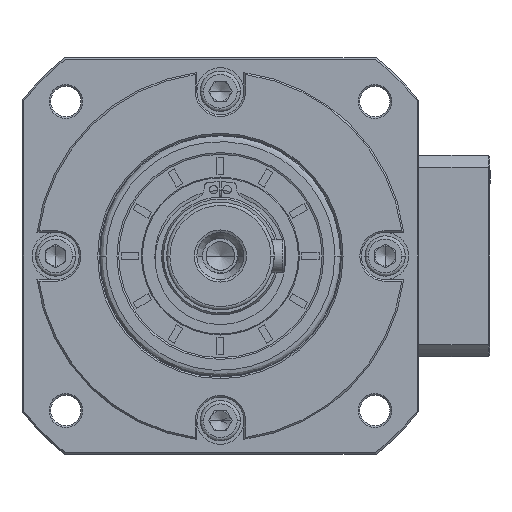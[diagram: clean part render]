
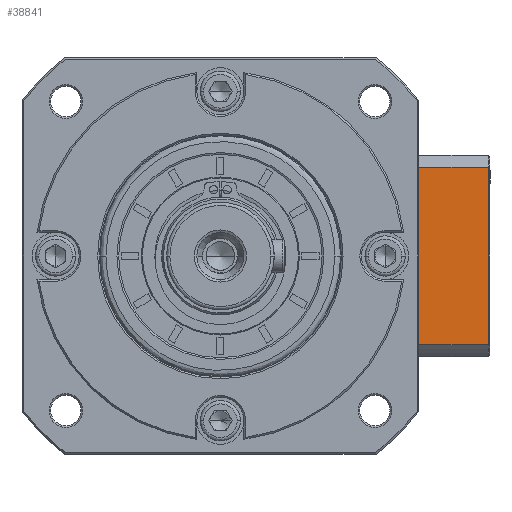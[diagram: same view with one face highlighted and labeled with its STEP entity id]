
A CAD part, left-side view. The second image highlights one B-rep face of the part: STEP entity #38841.
In plain terms, the highlighted planar face has unit normal (-1, 0, 0).
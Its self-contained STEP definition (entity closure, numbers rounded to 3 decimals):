
#263 = DIRECTION ( 'NONE',  ( 0., -1., 0. ) ) ;
#269 = CARTESIAN_POINT ( 'NONE',  ( -94.594, 48.38, -78.833 ) ) ;
#1634 = DIRECTION ( 'NONE',  ( 0., 1., 0. ) ) ;
#7665 = DIRECTION ( 'NONE',  ( 0., 0., -1. ) ) ;
#13677 = CARTESIAN_POINT ( 'NONE',  ( -94.594, 50.854, -74.603 ) ) ;
#17667 = LINE ( 'NONE', #167381, #84250 ) ;
#18985 = ORIENTED_EDGE ( 'NONE', *, *, #160802, .F. ) ;
#19051 = VECTOR ( 'NONE', #173058, 1000. ) ;
#22892 = CARTESIAN_POINT ( 'NONE',  ( -94.594, 50.054, -34.213 ) ) ;
#26057 = VERTEX_POINT ( 'NONE', #150272 ) ;
#26182 = EDGE_CURVE ( 'NONE', #26057, #77003, #143985, .T. ) ;
#26261 = CARTESIAN_POINT ( 'NONE',  ( -94.594, 51.604, -73.148 ) ) ;
#28376 = CARTESIAN_POINT ( 'NONE',  ( -94.594, 24.404, -81.578 ) ) ;
#29358 = CARTESIAN_POINT ( 'NONE',  ( -94.594, 24.404, -28.662 ) ) ;
#32795 = FACE_OUTER_BOUND ( 'NONE', #39878, .T. ) ;
#32831 = CARTESIAN_POINT ( 'NONE',  ( -94.594, 46.604, -28.662 ) ) ;
#34361 = EDGE_CURVE ( 'NONE', #93597, #66026, #69051, .T. ) ;
#34858 = ORIENTED_EDGE ( 'NONE', *, *, #104061, .F. ) ;
#38841 = ADVANCED_FACE ( 'NONE', ( #32795 ), #76119, .F. ) ;
#39878 = EDGE_LOOP ( 'NONE', ( #79160, #169035, #45972, #44492, #164871, #34858, #66264, #18985 ) ) ;
#44492 = ORIENTED_EDGE ( 'NONE', *, *, #125936, .F. ) ;
#45972 = ORIENTED_EDGE ( 'NONE', *, *, #34361, .F. ) ;
#49880 = DIRECTION ( 'NONE',  ( 1., 0., 0. ) ) ;
#53235 = CARTESIAN_POINT ( 'NONE',  ( -94.594, 47.506, -80.213 ) ) ;
#54688 = LINE ( 'NONE', #57211, #90088 ) ;
#55415 = LINE ( 'NONE', #161990, #90829 ) ;
#56482 = EDGE_CURVE ( 'NONE', #66026, #121437, #86557, .T. ) ;
#57211 = CARTESIAN_POINT ( 'NONE',  ( -94.594, 23.904, -37.092 ) ) ;
#62992 = CARTESIAN_POINT ( 'NONE',  ( -94.594, 51.604, -37.092 ) ) ;
#66026 = VERTEX_POINT ( 'NONE', #32831 ) ;
#66264 = ORIENTED_EDGE ( 'NONE', *, *, #110687, .F. ) ;
#69051 = B_SPLINE_CURVE_WITH_KNOTS ( 'NONE', 3,
 ( #62992, #142941, #22892, #156390, #76366, #169795 ),
 .UNSPECIFIED., .F., .F.,
 ( 4, 2, 4 ),
 ( 0., 0.005, 0.01 ),
 .UNSPECIFIED. ) ;
#69358 = VERTEX_POINT ( 'NONE', #103367 ) ;
#71642 = CARTESIAN_POINT ( 'NONE',  ( -94.594, 66.104, -73.148 ) ) ;
#76119 = PLANE ( 'NONE',  #155055 ) ;
#76366 = CARTESIAN_POINT ( 'NONE',  ( -94.594, 47.506, -30.027 ) ) ;
#77003 = VERTEX_POINT ( 'NONE', #71642 ) ;
#79160 = ORIENTED_EDGE ( 'NONE', *, *, #93910, .F. ) ;
#79936 = CARTESIAN_POINT ( 'NONE',  ( -94.594, 23.904, -28.662 ) ) ;
#81229 = B_SPLINE_CURVE_WITH_KNOTS ( 'NONE', 3,
 ( #160021, #53235, #269, #93394, #13677, #106827 ),
 .UNSPECIFIED., .F., .F.,
 ( 4, 2, 4 ),
 ( 0., 0.005, 0.01 ),
 .UNSPECIFIED. ) ;
#84250 = VECTOR ( 'NONE', #7665, 1000. ) ;
#86557 = LINE ( 'NONE', #79936, #157650 ) ;
#90088 = VECTOR ( 'NONE', #137055, 1000. ) ;
#90472 = CARTESIAN_POINT ( 'NONE',  ( -94.594, 51.604, -37.092 ) ) ;
#90829 = VECTOR ( 'NONE', #1634, 1000. ) ;
#93394 = CARTESIAN_POINT ( 'NONE',  ( -94.594, 50.054, -76.027 ) ) ;
#93597 = VERTEX_POINT ( 'NONE', #90472 ) ;
#93910 = EDGE_CURVE ( 'NONE', #121437, #98983, #17667, .T. ) ;
#98983 = VERTEX_POINT ( 'NONE', #28376 ) ;
#103367 = CARTESIAN_POINT ( 'NONE',  ( -94.594, 46.604, -81.578 ) ) ;
#104061 = EDGE_CURVE ( 'NONE', #138313, #77003, #121087, .T. ) ;
#106827 = CARTESIAN_POINT ( 'NONE',  ( -94.594, 51.604, -73.148 ) ) ;
#107067 = CARTESIAN_POINT ( 'NONE',  ( -94.594, 51.604, -73.148 ) ) ;
#108449 = VECTOR ( 'NONE', #165464, 1000. ) ;
#110687 = EDGE_CURVE ( 'NONE', #69358, #138313, #81229, .T. ) ;
#121087 = LINE ( 'NONE', #107067, #19051 ) ;
#121437 = VERTEX_POINT ( 'NONE', #29358 ) ;
#125936 = EDGE_CURVE ( 'NONE', #26057, #93597, #54688, .T. ) ;
#129797 = CARTESIAN_POINT ( 'NONE',  ( -94.594, 23.904, -85.12 ) ) ;
#137055 = DIRECTION ( 'NONE',  ( 0., -1., 0. ) ) ;
#138313 = VERTEX_POINT ( 'NONE', #26261 ) ;
#142941 = CARTESIAN_POINT ( 'NONE',  ( -94.594, 50.854, -35.637 ) ) ;
#143275 = DIRECTION ( 'NONE',  ( 0., 1., 0. ) ) ;
#143985 = LINE ( 'NONE', #151986, #108449 ) ;
#150272 = CARTESIAN_POINT ( 'NONE',  ( -94.594, 66.104, -37.092 ) ) ;
#151986 = CARTESIAN_POINT ( 'NONE',  ( -94.594, 66.104, -22.62 ) ) ;
#155055 = AXIS2_PLACEMENT_3D ( 'NONE', #129797, #49880, #143275 ) ;
#156390 = CARTESIAN_POINT ( 'NONE',  ( -94.594, 48.38, -31.407 ) ) ;
#157650 = VECTOR ( 'NONE', #263, 1000. ) ;
#160021 = CARTESIAN_POINT ( 'NONE',  ( -94.594, 46.604, -81.578 ) ) ;
#160802 = EDGE_CURVE ( 'NONE', #98983, #69358, #55415, .T. ) ;
#161990 = CARTESIAN_POINT ( 'NONE',  ( -94.594, 23.904, -81.578 ) ) ;
#164871 = ORIENTED_EDGE ( 'NONE', *, *, #26182, .T. ) ;
#165464 = DIRECTION ( 'NONE',  ( 0., 0., -1. ) ) ;
#167381 = CARTESIAN_POINT ( 'NONE',  ( -94.594, 24.404, -85.12 ) ) ;
#169035 = ORIENTED_EDGE ( 'NONE', *, *, #56482, .F. ) ;
#169795 = CARTESIAN_POINT ( 'NONE',  ( -94.594, 46.604, -28.662 ) ) ;
#173058 = DIRECTION ( 'NONE',  ( 0., 1., 0. ) ) ;
